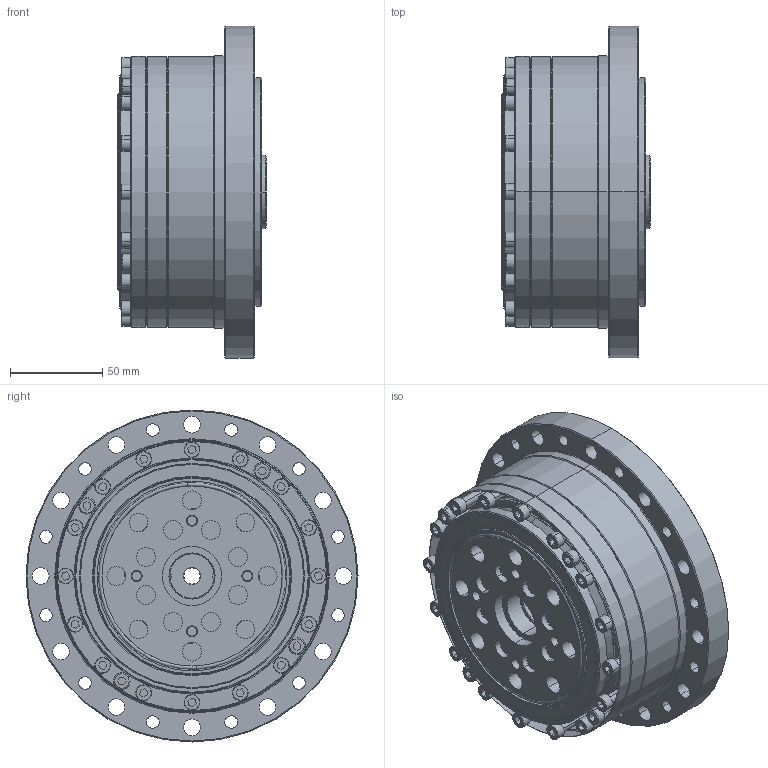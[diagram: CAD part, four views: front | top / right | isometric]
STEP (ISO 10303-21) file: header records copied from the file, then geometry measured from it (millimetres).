
FILE_DESCRIPTION (( 'STEP AP203' ), '1' );
FILE_NAME ('FCS-45-80-AJ.STEP', '2023-01-16T07:52:01', ( '微软用户' ), ( '微软中国' ), 'SwSTEP 2.0', 'SolidWorks 2016', '' );
FILE_SCHEMA (( 'CONFIG_CONTROL_DESIGN' ));
Length unit declared in the file: millimetre
Products named in the file (1): FCS-45-80-AJ
Bounding box: 80.5 x 180 x 180 mm (x, y, z)
Volume: 929216.4 mm3; surface area: 358000 mm2
Topology: 67 solids, 68 shells, 1314 faces, 3081 edges, 1922 vertices
Faces by surface type: cylinder 517, plane 405, cone 198, torus 148, sphere 46
Entity records: 37175 total; most frequent: DIRECTION 7174, CARTESIAN_POINT 6110, ORIENTED_EDGE 5860, AXIS2_PLACEMENT_3D 2933, EDGE_CURVE 2930, VERTEX_POINT 1853, CIRCLE 1618, EDGE_LOOP 1617
